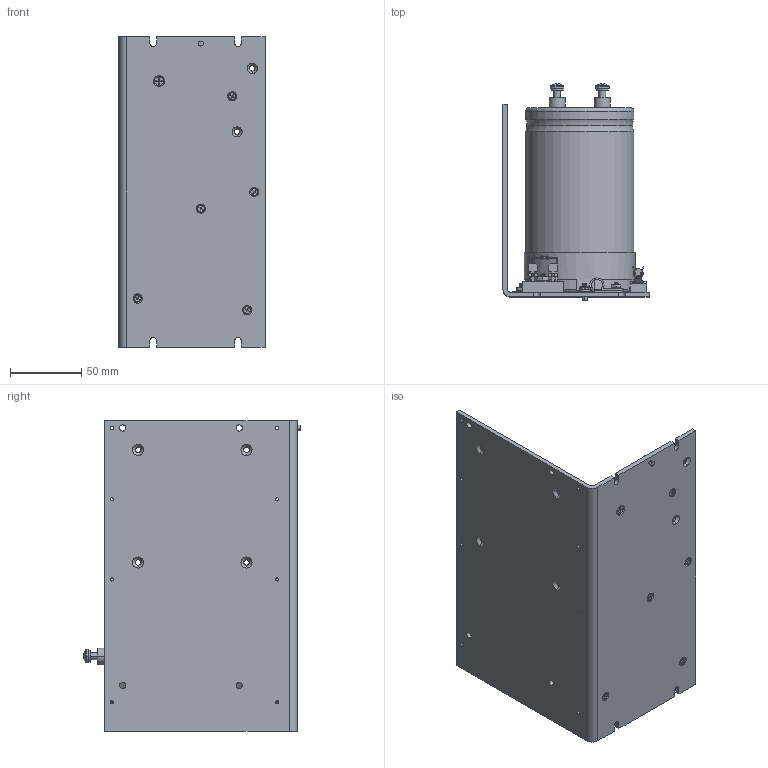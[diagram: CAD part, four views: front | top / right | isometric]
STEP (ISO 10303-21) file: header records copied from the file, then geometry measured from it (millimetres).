
FILE_DESCRIPTION((''),'2;1');
FILE_NAME('AMC_CAD_PS_PS300W170_ASM','2019-06-03T',('SYSTEM'),(''),'PRO/ENGINEER BY PARAMETRIC TECHNOLOGY CORPORATION, 2016360','PRO/ENGINEER BY PARAMETRIC TECHNOLOGY CORPORATION, 2016360','');
FILE_SCHEMA(('AUTOMOTIVE_DESIGN { 1 0 10303 214 1 1 1 1 }'));
Length unit declared in the file: inch
Products named in the file (38): S2-4-SOLID1; R1-2-SOLID1; S3-3-SOLID1; CLAMP-2-SOLID1; N2-3-SOLID1; S11-2-SOLID2; N11-3-SOLID1; DB1-2-SOLID1; S14-2-SOLID1; S12-3-SOLID1; BRKT1-2-SOLID1; FH-2-SOLID4; FH-2-SOLID1; N6-8-SOLID2; S6-2-SOLID1; N1-2-SOLID1; S4-2-SOLID1; S13-2-SOLID1; N6-8-SOLID1; N3-4-SOLID1; BSPLT-2-SOLID1; FUSE-2-SOLID1; FH-2-SOLID3; FH-2-SOLID5; S13-2-SOLID2; N4-5-SOLID1; FH-2-SOLID2; W1-2-SOLID1; S1-5-SOLID1; FH-2-SOLID7; S12-3-SOLID2; S5-4-SOLID1; C1-2-SOLID1; S11-2-SOLID1; FH-2-SOLID6; N5-7-SOLID1; ASM0001_ASM; AMC_CAD_PS_PS300W170_ASM
Assembly tree (37 placements, depth 3):
  AMC_CAD_PS_PS300W170_ASM
    ASM0001_ASM
      S2-4-SOLID1
      R1-2-SOLID1
      S3-3-SOLID1
      CLAMP-2-SOLID1
      N2-3-SOLID1
      S11-2-SOLID2
      N11-3-SOLID1
      DB1-2-SOLID1
      S14-2-SOLID1
      S12-3-SOLID1
      BRKT1-2-SOLID1
      FH-2-SOLID4
      FH-2-SOLID1
      N6-8-SOLID2
      S6-2-SOLID1
      N1-2-SOLID1
      S4-2-SOLID1
      S13-2-SOLID1
      N6-8-SOLID1
      N3-4-SOLID1
      BSPLT-2-SOLID1
      FUSE-2-SOLID1
      FH-2-SOLID3
      FH-2-SOLID5
      S13-2-SOLID2
      N4-5-SOLID1
      FH-2-SOLID2
      W1-2-SOLID1
      S1-5-SOLID1
      FH-2-SOLID7
      S12-3-SOLID2
      S5-4-SOLID1
      C1-2-SOLID1
      S11-2-SOLID1
      FH-2-SOLID6
      N5-7-SOLID1
Bounding box: 102.87 x 152.56 x 218.44 mm (x, y, z)
Volume: 768730.8 mm3; surface area: 170669.8 mm2
Topology: 36 solids, 36 shells, 2076 faces, 5522 edges, 3534 vertices
Faces by surface type: plane 709, cylinder 678, cone 599, torus 57, sphere 20, bspline 13
Entity records: 102038 total; most frequent: CARTESIAN_POINT 17602, DIRECTION 11705, ORIENTED_EDGE 11020, PRESENTATION_STYLE_ASSIGNMENT 7285, STYLED_ITEM 5546, CURVE_STYLE 5510, EDGE_CURVE 5510, AXIS2_PLACEMENT_3D 4451
